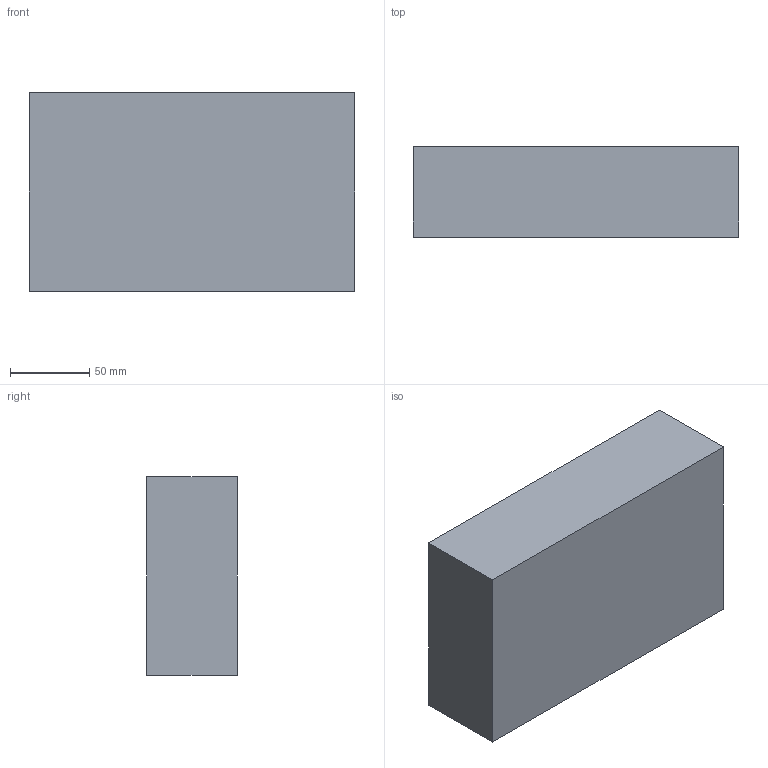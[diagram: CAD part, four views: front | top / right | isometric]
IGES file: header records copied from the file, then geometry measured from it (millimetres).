
Start section: SolidWorks IGES file using analytic representation for surfaces
Global section: file name: C:\Users\Stagiaire\Desktop\Rendu 3D\EDGE\1930_EDGE_20\1930_EDGE_20.IGS; native system: SolidWorks 2014; preprocessor: SolidWorks 2014; author: Stagiaire; date: 140915.155044; units: millimetre
Bounding box: 205 x 57 x 125 mm (x, y, z)
Surface area: 116130 mm2 (no closed solid volume)
Topology: 0 solids, 0 shells, 11 faces, 48 edges, 48 vertices
Faces by surface type: bspline 11
